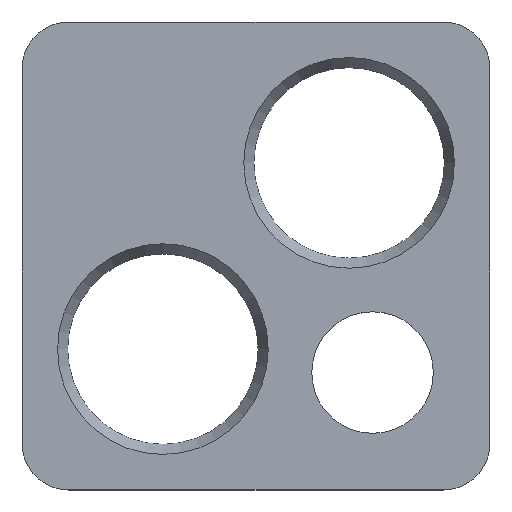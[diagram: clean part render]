
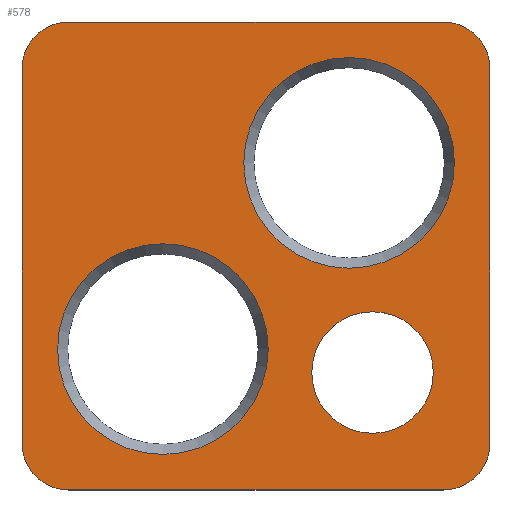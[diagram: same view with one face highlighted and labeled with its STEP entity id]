
A CAD part, top view. The second image highlights one B-rep face of the part: STEP entity #578.
In plain terms, the highlighted planar face has unit normal (0, 0, 1).
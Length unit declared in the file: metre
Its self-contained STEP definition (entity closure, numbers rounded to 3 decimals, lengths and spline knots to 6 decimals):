
#19=CIRCLE('',#630,0.023);
#21=CIRCLE('',#634,0.023);
#23=CIRCLE('',#638,0.023);
#25=CIRCLE('',#642,0.03);
#31=CIRCLE('',#651,0.023);
#32=CIRCLE('',#653,0.052);
#33=CIRCLE('',#654,0.052);
#125=ORIENTED_EDGE('',*,*,#245,.T.);
#126=ORIENTED_EDGE('',*,*,#246,.T.);
#127=ORIENTED_EDGE('',*,*,#238,.F.);
#128=ORIENTED_EDGE('',*,*,#217,.T.);
#129=ORIENTED_EDGE('',*,*,#221,.T.);
#130=ORIENTED_EDGE('',*,*,#224,.T.);
#131=ORIENTED_EDGE('',*,*,#227,.T.);
#132=ORIENTED_EDGE('',*,*,#230,.F.);
#133=ORIENTED_EDGE('',*,*,#233,.T.);
#134=ORIENTED_EDGE('',*,*,#236,.F.);
#135=ORIENTED_EDGE('',*,*,#244,.T.);
#217=EDGE_CURVE('',#282,#281,#337,.T.);
#221=EDGE_CURVE('',#281,#284,#19,.T.);
#224=EDGE_CURVE('',#284,#286,#342,.T.);
#227=EDGE_CURVE('',#286,#288,#21,.T.);
#230=EDGE_CURVE('',#290,#288,#346,.T.);
#233=EDGE_CURVE('',#290,#292,#23,.T.);
#236=EDGE_CURVE('',#294,#292,#350,.T.);
#238=EDGE_CURVE('',#296,#296,#25,.T.);
#244=EDGE_CURVE('',#294,#282,#31,.T.);
#245=EDGE_CURVE('',#301,#301,#32,.F.);
#246=EDGE_CURVE('',#302,#302,#33,.F.);
#281=VERTEX_POINT('',#936);
#282=VERTEX_POINT('',#938);
#284=VERTEX_POINT('',#944);
#286=VERTEX_POINT('',#950);
#288=VERTEX_POINT('',#956);
#290=VERTEX_POINT('',#962);
#292=VERTEX_POINT('',#968);
#294=VERTEX_POINT('',#974);
#296=VERTEX_POINT('',#980);
#301=VERTEX_POINT('',#996);
#302=VERTEX_POINT('',#998);
#337=LINE('',#937,#353);
#342=LINE('',#951,#358);
#346=LINE('',#963,#362);
#350=LINE('',#975,#366);
#353=VECTOR('',#728,1.);
#358=VECTOR('',#741,1.);
#362=VECTOR('',#753,1.);
#366=VECTOR('',#765,1.);
#381=EDGE_LOOP('',(#125));
#382=EDGE_LOOP('',(#126));
#383=EDGE_LOOP('',(#127));
#384=EDGE_LOOP('',(#128,#129,#130,#131,#132,#133,#134,#135));
#471=FACE_BOUND('',#381,.T.);
#472=FACE_BOUND('',#382,.T.);
#473=FACE_BOUND('',#383,.T.);
#474=FACE_BOUND('',#384,.T.);
#551=PLANE('',#652);
#578=ADVANCED_FACE('',(#471,#472,#473,#474),#551,.T.);
#630=AXIS2_PLACEMENT_3D('',#945,#735,#736);
#634=AXIS2_PLACEMENT_3D('',#957,#747,#748);
#638=AXIS2_PLACEMENT_3D('',#969,#759,#760);
#642=AXIS2_PLACEMENT_3D('',#979,#770,#771);
#651=AXIS2_PLACEMENT_3D('',#993,#788,#789);
#652=AXIS2_PLACEMENT_3D('',#994,#790,#791);
#653=AXIS2_PLACEMENT_3D('',#995,#792,#793);
#654=AXIS2_PLACEMENT_3D('',#997,#794,#795);
#728=DIRECTION('',(0.,1.,0.));
#735=DIRECTION('',(0.,0.,1.));
#736=DIRECTION('',(1.,0.,0.));
#741=DIRECTION('',(-1.,0.,0.));
#747=DIRECTION('',(0.,0.,1.));
#748=DIRECTION('',(1.,0.,0.));
#753=DIRECTION('',(0.,1.,0.));
#759=DIRECTION('',(0.,0.,1.));
#760=DIRECTION('',(1.,0.,0.));
#765=DIRECTION('',(-1.,0.,0.));
#770=DIRECTION('',(0.,0.,1.));
#771=DIRECTION('',(1.,0.,0.));
#788=DIRECTION('',(0.,0.,1.));
#789=DIRECTION('',(1.,0.,0.));
#790=DIRECTION('',(0.,0.,1.));
#791=DIRECTION('',(1.,0.,0.));
#792=DIRECTION('',(0.,0.,1.));
#793=DIRECTION('',(1.,0.,0.));
#794=DIRECTION('',(0.,0.,1.));
#795=DIRECTION('',(1.,0.,0.));
#936=CARTESIAN_POINT('',(0.1155,0.0925,0.018));
#937=CARTESIAN_POINT('',(0.1155,0.,0.018));
#938=CARTESIAN_POINT('',(0.1155,-0.0925,0.018));
#944=CARTESIAN_POINT('',(0.0925,0.1155,0.018));
#945=CARTESIAN_POINT('',(0.0925,0.0925,0.018));
#950=CARTESIAN_POINT('',(-0.0925,0.1155,0.018));
#951=CARTESIAN_POINT('',(0.,0.1155,0.018));
#956=CARTESIAN_POINT('',(-0.1155,0.0925,0.018));
#957=CARTESIAN_POINT('',(-0.0925,0.0925,0.018));
#962=CARTESIAN_POINT('',(-0.1155,-0.0925,0.018));
#963=CARTESIAN_POINT('',(-0.1155,0.,0.018));
#968=CARTESIAN_POINT('',(-0.0925,-0.1155,0.018));
#969=CARTESIAN_POINT('',(-0.0925,-0.0925,0.018));
#974=CARTESIAN_POINT('',(0.0925,-0.1155,0.018));
#975=CARTESIAN_POINT('',(0.,-0.1155,0.018));
#979=CARTESIAN_POINT('',(0.05755,-0.05755,0.018));
#980=CARTESIAN_POINT('',(0.08755,-0.05755,0.018));
#993=CARTESIAN_POINT('',(0.0925,-0.0925,0.018));
#994=CARTESIAN_POINT('',(0.,0.,0.018));
#995=CARTESIAN_POINT('',(-0.045962,-0.045962,0.018));
#996=CARTESIAN_POINT('',(0.006038,-0.045962,0.018));
#997=CARTESIAN_POINT('',(0.045962,0.045962,0.018));
#998=CARTESIAN_POINT('',(0.097962,0.045962,0.018));
